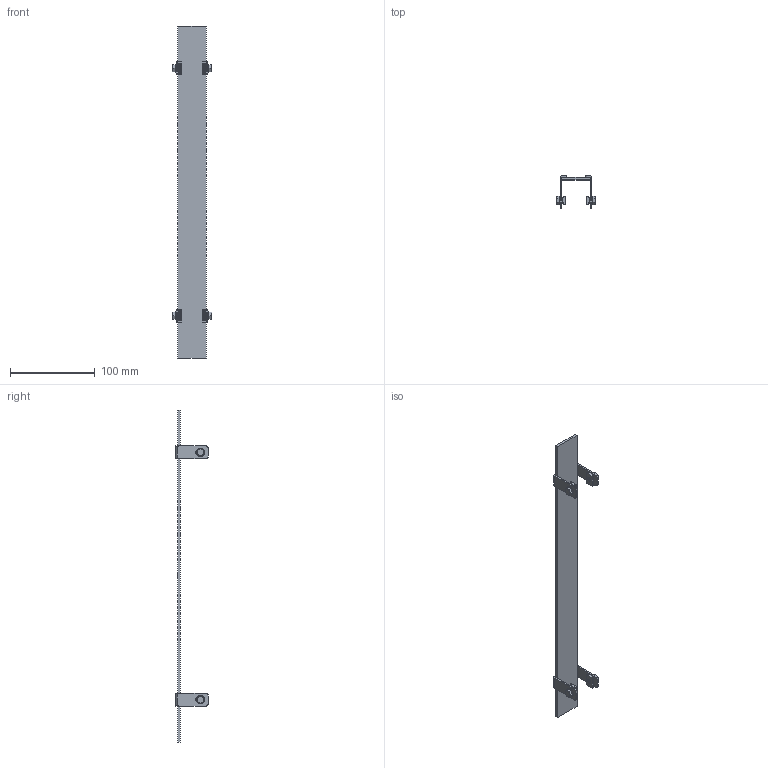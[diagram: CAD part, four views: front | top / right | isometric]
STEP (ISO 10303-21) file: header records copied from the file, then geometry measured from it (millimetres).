
FILE_DESCRIPTION((''),'2;1');
FILE_NAME('2011165_ASM','2012-09-05T',('rink'),(''),'PRO/ENGINEER BY PARAMETRIC TECHNOLOGY CORPORATION, 2011040','PRO/ENGINEER BY PARAMETRIC TECHNOLOGY CORPORATION, 2011040','');
FILE_SCHEMA(('AUTOMOTIVE_DESIGN_CC2 { 1 2 10303 214 -1 1 5 2 }'));
Length unit declared in the file: millimetre
Products named in the file (7): 2011164; 2011161; 2003292; 2011162; 2011167; 2011163_ASM; 2011165_ASM
Assembly tree (9 placements, depth 3):
  2011165_ASM
    2011164
    2011163_ASM  x4
      2011161
      2003292
      2011162
      2011167
Bounding box: 46.8 x 38 x 392 mm (x, y, z)
Volume: 46553.9 mm3; surface area: 38189.4 mm2
Topology: 17 solids, 21 shells, 373 faces, 945 edges, 650 vertices
Faces by surface type: plane 241, cylinder 84, cone 40, torus 8
Entity records: 5382 total; most frequent: CARTESIAN_POINT 751, DIRECTION 705, ORIENTED_EDGE 604, PRESENTATION_STYLE_ASSIGNMENT 366, STYLED_ITEM 335, CURVE_STYLE 329, EDGE_CURVE 304, VECTOR 237
